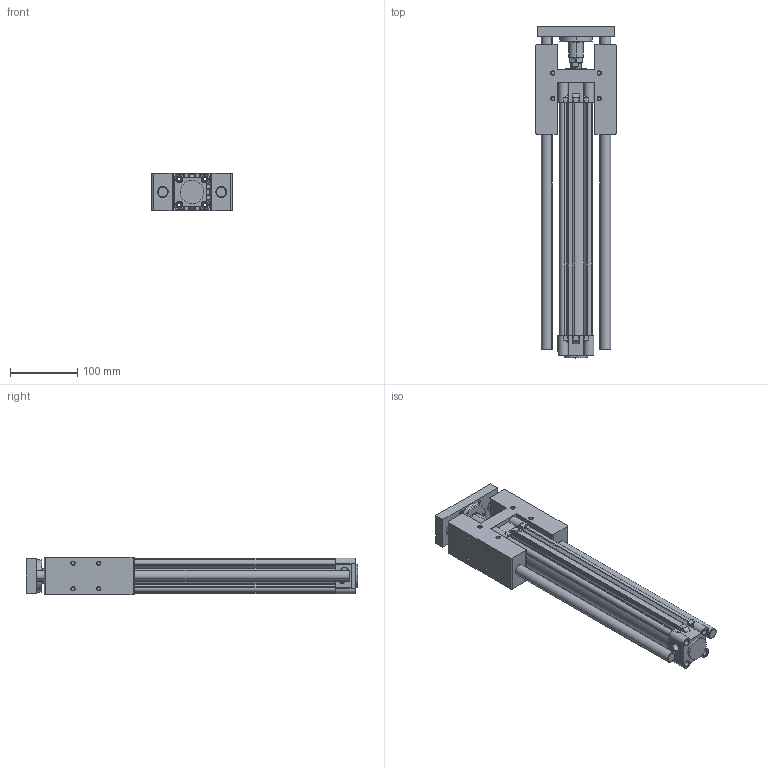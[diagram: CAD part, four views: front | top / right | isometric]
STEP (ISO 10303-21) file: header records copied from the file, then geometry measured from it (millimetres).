
FILE_DESCRIPTION (( 'STEP AP203' ), '1' );
FILE_NAME ('KDNT40X300H-YATAK.STEP', '2016-05-18T07:41:48', ( 'user' ), ( '' ), 'SwSTEP 2.0', 'SolidWorks 2013', '' );
FILE_SCHEMA (( 'CONFIG_CONTROL_DESIGN' ));
Length unit declared in the file: millimetre
Products named in the file (11): KDNT 40X300 BORU; ORTA PÝSTON 40; 烰 KAPAK  40; PÝSTON MÝLÝ 40X300; DNC-H-YATAK MÝL YATAÐI 40; DNC-H-YATAK 40; SOMUN 40; DNC-H-YATAK M尳 40X300; KDNT40X300H-YATAK; DNC-H-YATAK TABLA 40; ARKA KAPAK 40
Assembly tree (11 placements, depth 2):
  KDNT40X300H-YATAK
    DNC-H-YATAK 40
    DNC-H-YATAK M尳 40X300  x2
    DNC-H-YATAK TABLA 40
    ARKA KAPAK 40
    KDNT 40X300 BORU
    ORTA PÝSTON 40
    烰 KAPAK  40
    PÝSTON MÝLÝ 40X300
    DNC-H-YATAK MÝL YATAÐI 40
    SOMUN 40
Bounding box: 119 x 493 x 56 mm (x, y, z)
Volume: 1190176.1 mm3; surface area: 381801.1 mm2
Topology: 11 solids, 11 shells, 875 faces, 2156 edges, 1374 vertices
Faces by surface type: cylinder 412, plane 260, cone 137, bspline 48, torus 18
Entity records: 31832 total; most frequent: CARTESIAN_POINT 10386, ORIENTED_EDGE 4260, DIRECTION 4152, EDGE_CURVE 2130, AXIS2_PLACEMENT_3D 1625, VERTEX_POINT 1366, EDGE_LOOP 1030, VECTOR 902
